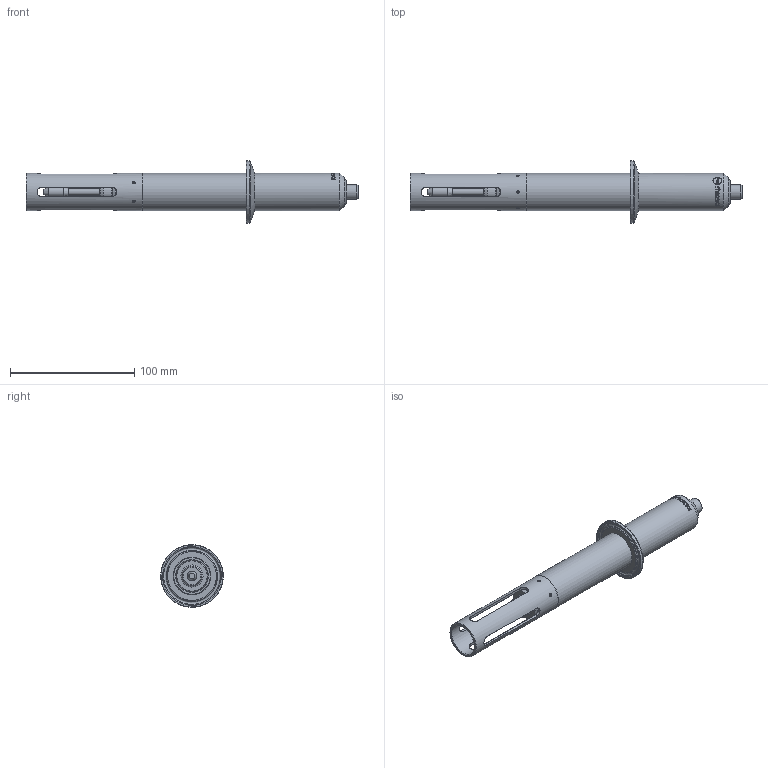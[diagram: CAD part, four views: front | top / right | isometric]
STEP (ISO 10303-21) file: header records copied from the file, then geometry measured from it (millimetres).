
FILE_DESCRIPTION(/* description */ ('Unknown'),/* implementation_level */ '2;1');
FILE_NAME(/* name */ 'SRV-X5-B15T_SFP-SRX',/* time_stamp */ '2023-12-06T11:31:18-05:00',/* author */ ('Unknown'),/* organization */ ('Unknown'),/* preprocessor_version */ 'ST-DEVELOPER v16.7',/* originating_system */ 'Solid Edge',/* authorisation */ 'Unknown');
FILE_SCHEMA (('CONFIG_CONTROL_DESIGN'));
Length unit declared in the file: millimetre
Products named in the file (5): SRV-X5-B15T_SFP-SRX; SRV-X5-B15T; SFP-SRX; M2; 92605A911_Stainless Steel Flat-Tip Set Screw
Assembly tree (9 placements, depth 3):
  SRV-X5-B15T_SFP-SRX
    SRV-X5-B15T
    SFP-SRX
    M2
      92605A911_Stainless Steel Flat-Tip Set Screw  x6
Bounding box: 267.7 x 50.4 x 50.4 mm (x, y, z)
Volume: 149509.7 mm3; surface area: 37362.5 mm2
Topology: 8 solids, 8 shells, 365 faces, 1123 edges, 797 vertices
Faces by surface type: plane 113, bspline 102, cylinder 72, cone 62, torus 8, sphere 8
Full cylindrical faces by diameter (mm): 0.8 x8, 5 x1, 8 x2, 12 x1, 16 x1, 26 x2, 30 x3, 50.5 x1
Entity records: 20368 total; most frequent: CARTESIAN_POINT 13163, ORIENTED_EDGE 1444, DIRECTION 744, EDGE_CURVE 722, VERTEX_POINT 547, B_SPLINE_CURVE_WITH_KNOTS 425, EDGE_LOOP 361, FACE_BOUND 361
